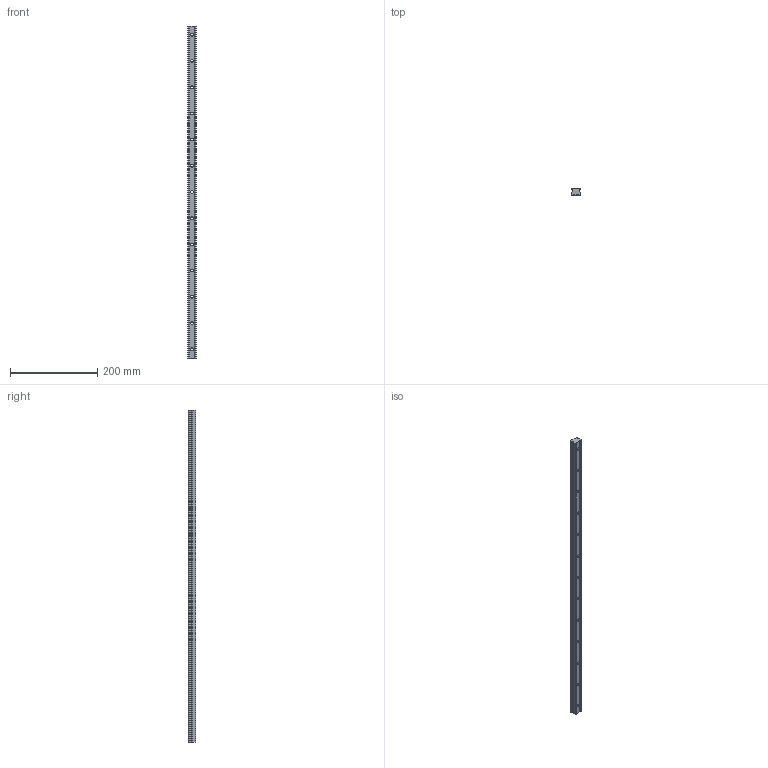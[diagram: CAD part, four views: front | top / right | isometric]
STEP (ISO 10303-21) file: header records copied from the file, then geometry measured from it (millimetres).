
FILE_DESCRIPTION (( 'STEP AP203' ), '1' );
FILE_NAME ('L1016.BL20-0760.step', '2019-06-12T11:47:18', ( '' ), ( '' ), 'SwSTEP 2.0', 'SolidWorks 2017', '' );
FILE_SCHEMA (( 'CONFIG_CONTROL_DESIGN' ));
Length unit declared in the file: millimetre
Products named in the file (1): L1016.BL20-0760
Bounding box: 20 x 16.3 x 760 mm (x, y, z)
Volume: 211062.4 mm3; surface area: 61643.8 mm2
Topology: 1 solids, 1 shells, 91 faces, 228 edges, 152 vertices
Faces by surface type: cylinder 56, plane 35
Entity records: 2903 total; most frequent: DIRECTION 524, CARTESIAN_POINT 472, ORIENTED_EDGE 456, EDGE_CURVE 228, AXIS2_PLACEMENT_3D 204, VERTEX_POINT 152, EDGE_LOOP 130, LINE 116
